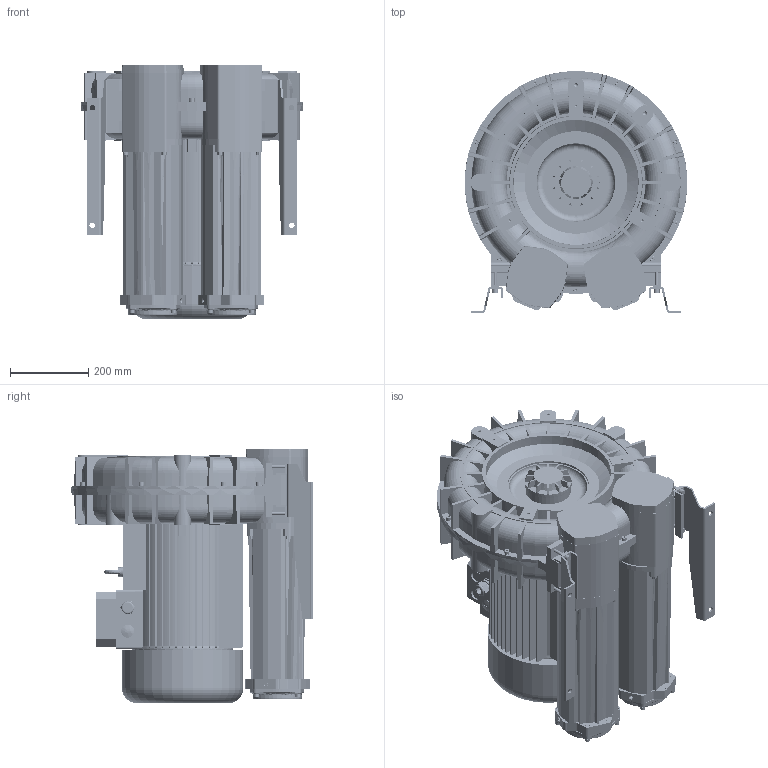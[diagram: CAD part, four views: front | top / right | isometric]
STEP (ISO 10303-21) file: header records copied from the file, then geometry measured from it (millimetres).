
FILE_DESCRIPTION (( 'STEP AP203' ), '1' );
FILE_NAME ('STP-L_e_12_MS_MOR_IE3WR_160_18.5kW-3_24-00.step', '2025-01-15T09:24:54', ( '' ), ( '' ), 'SwSTEP 2.0', 'SolidWorks 2024', '' );
FILE_SCHEMA (( 'CONFIG_CONTROL_DESIGN' ));
Length unit declared in the file: millimetre
Products named in the file (1): STP-L_e_12_MS_MOR_IE3WR_160_18.5kW-3_24-00
Bounding box: 568 x 616 x 649.5 mm (x, y, z)
Volume: 79871979 mm3; surface area: 4310738 mm2
Topology: 91 solids, 91 shells, 6328 faces, 16165 edges, 10019 vertices
Faces by surface type: plane 2085, cylinder 1978, bspline 1049, cone 580, torus 579, sphere 57
Full cylindrical faces by diameter (mm): 6.8 x28, 7.5 x4, 8 x33, 8.4 x29, 8.5 x10, 8.566 x2, 8.8 x4, 9.98 x2, 10 x7, 11 x12, 12 x2, 12.02 x2, 13 x46, 14 x14, 16 x12, 16.5 x2, 18 x1, 24.4 x1, 27 x7, 28 x3, 32.5 x1, 33 x1, 110.4 x2, 115 x2, 120 x1, 128 x2, 207 x3, 250 x2, 257 x1, 310 x1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
Entity records: 298511 total; most frequent: CARTESIAN_POINT 158585, ORIENTED_EDGE 30752, DIRECTION 26623, EDGE_CURVE 15376, AXIS2_PLACEMENT_3D 10331, VERTEX_POINT 9799, EDGE_LOOP 7067, FACE_OUTER_BOUND 6653
